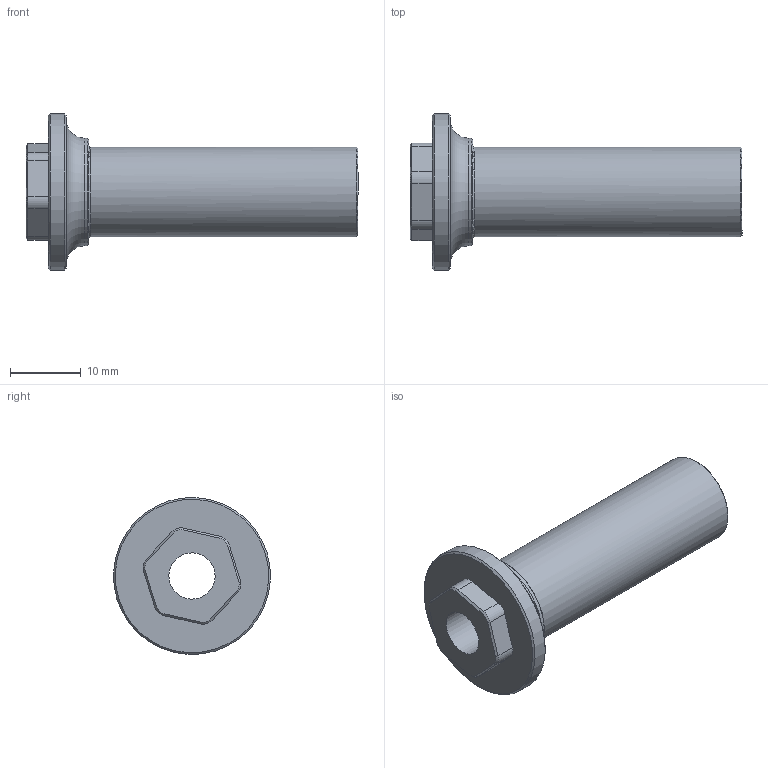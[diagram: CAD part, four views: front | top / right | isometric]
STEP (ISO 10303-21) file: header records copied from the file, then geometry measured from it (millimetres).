
FILE_DESCRIPTION(/* description */ ('Hoagie v9'),/* implementation_level */ '2;1');
FILE_NAME(/* name */ '30lb_BeeSpoke_v2 .step',/* time_stamp */ '2026-02-27T20:30:32-05:00',/* author */ (''),/* organization */ (''),/* preprocessor_version */ 'ST-DEVELOPER v20.1',/* originating_system */ 'Autodesk Translation Framework v14.24.0.0',/* authorisation */ '');
FILE_SCHEMA (('AUTOMOTIVE_DESIGN { 1 0 10303 214 3 1 1 }'));
Length unit declared in the file: inch
Products named in the file (1): Hoagie v9
Bounding box: 46.99 x 22.2 x 22.2 mm (x, y, z)
Volume: 5317.2 mm3; surface area: 3570.5 mm2
Topology: 1 solids, 1 shells, 39 faces, 86 edges, 52 vertices
Faces by surface type: plane 17, cylinder 10, cone 10, torus 2
Full cylindrical faces by diameter (mm): 6.54 x1, 12.7 x1, 15.24 x1, 22.225 x1
Entity records: 1114 total; most frequent: DIRECTION 202, CARTESIAN_POINT 178, ORIENTED_EDGE 172, EDGE_CURVE 86, AXIS2_PLACEMENT_3D 76, VERTEX_POINT 52, LINE 50, VECTOR 50
